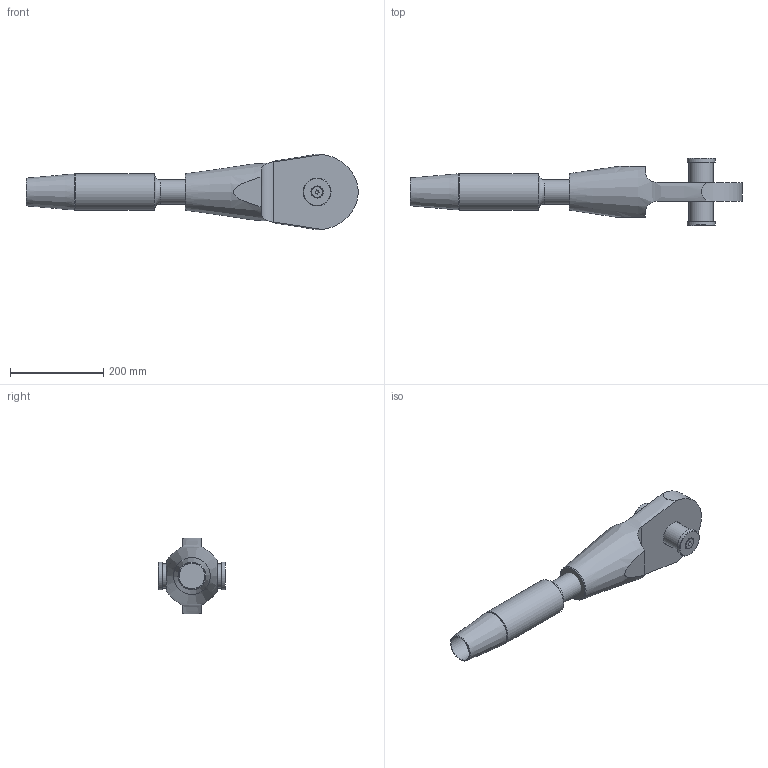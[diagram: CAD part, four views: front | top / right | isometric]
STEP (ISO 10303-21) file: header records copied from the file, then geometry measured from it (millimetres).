
FILE_DESCRIPTION(/* description */ (''),/* implementation_level */ '2;1');
FILE_NAME(/* name */ 'C:\Vault_WS\Designs\SB\01-PX\Verzinkt\ZSS\520 - Zusambau-OES-ADA\520-052-OES-ADA.stp',/* time_stamp */ '2020-10-07T15:39:57+02:00',/* author */ ('schwarz'),/* organization */ (''),/* preprocessor_version */ 'ST-DEVELOPER v18.1',/* originating_system */ 'Autodesk Inventor 2020',/* authorisation */ '');
FILE_SCHEMA (('AUTOMOTIVE_DESIGN { 1 0 10303 214 3 1 1 }'));
Length unit declared in the file: millimetre
Products named in the file (1): 520-052-OES-ADA-Kunde
Bounding box: 711.77 x 144.44 x 162.59 mm (x, y, z)
Volume: 4114315 mm3; surface area: 298396.9 mm2
Topology: 6 solids, 6 shells, 56 faces, 135 edges, 93 vertices
Faces by surface type: plane 25, cylinder 16, cone 13, torus 2
Full cylindrical faces by diameter (mm): 10.106 x1, 12 x1, 13.5 x1, 23.12 x1, 52 x2, 54.5 x1, 55 x1, 60 x2, 78 x1
Entity records: 1902 total; most frequent: CARTESIAN_POINT 439, DIRECTION 292, ORIENTED_EDGE 266, EDGE_CURVE 133, AXIS2_PLACEMENT_3D 124, VERTEX_POINT 93, CIRCLE 67, EDGE_LOOP 64
